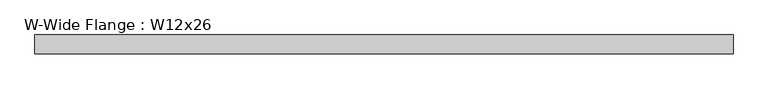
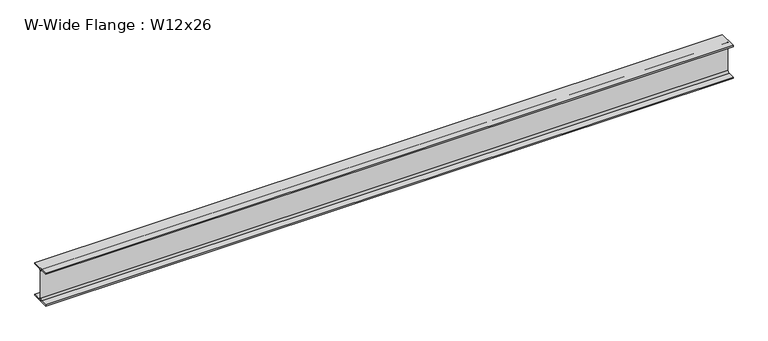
"""IFC4 building model written with IfcOpenShell, lengths in millimetres: beam geometry, W-Wide Flange : W12x26."""

from ifc_helpers import new_model, si_unit, point, frame, frame_2d, origin, place, context, project, spatial, polyline, circle_curve, trimmed, segment, composite_curve, outline, extrude, source, transform, mapped, element, save


def w_wide_flange_w12x26_57ccea49(model_context):
    return source(origin(), model_context, "Body", "SweptSolid", [
        extrude(outline(composite_curve([segment(polyline([(82.423, -145.288), (82.423, -154.94), (-82.423, -154.94), (-82.423, -145.288), (-20.2565, -145.288)]), True, "CONTINUOUS"), segment(trimmed(circle_curve(frame_2d((-20.2565, -127.9525)), 17.3355), [point((-20.2565, -145.288))], [point((-2.921, -127.9525))], True, "CARTESIAN"), True, "CONTINUOUS"), segment(polyline([(-2.921, -127.9525), (-2.921, 127.9525)]), True, "CONTINUOUS"), segment(trimmed(circle_curve(frame_2d((-20.2565, 127.9525)), 17.3355), [point((-2.921, 127.9525))], [point((-20.2565, 145.288))], True, "CARTESIAN"), True, "CONTINUOUS"), segment(polyline([(-20.2565, 145.288), (-82.423, 145.288), (-82.423, 154.94), (82.423, 154.94), (82.423, 145.288), (20.2565, 145.288)]), True, "CONTINUOUS"), segment(trimmed(circle_curve(frame_2d((20.2565, 127.9525)), 17.3355), [point((20.2565, 145.288))], [point((2.921, 127.9525))], True, "CARTESIAN"), True, "CONTINUOUS"), segment(polyline([(2.921, 127.9525), (2.921, -127.9525)]), True, "CONTINUOUS"), segment(trimmed(circle_curve(frame_2d((20.2565, -127.9525)), 17.3355), [point((2.921, -127.9525))], [point((20.2565, -145.288))], True, "CARTESIAN"), True, "CONTINUOUS"), segment(polyline([(20.2565, -145.288), (82.423, -145.288)]), True, "CONTINUOUS")], self_intersect=False)), frame((-3050.54, 0.0, 0.0), z_axis=(1.0, 0.0, 0.0), x_axis=(0.0, 1.0, 0.0)), (0.0, 0.0, 1.0), 6138.037),
    ])


if __name__ == "__main__":
    model = new_model("IFC4")
    model_context = context("Model", 3, world=origin())
    ifc_project = project(units=[si_unit("LENGTHUNIT", "METRE", prefix="MILLI")], contexts=[model_context])
    site = spatial("IfcSite", under=ifc_project)
    building = spatial("IfcBuilding", under=site)
    placement = place(None, origin())
    w_wide_flange_w12x26_shape = w_wide_flange_w12x26_57ccea49(model_context)
    element("IfcBeam", 1, ObjectType="W-Wide Flange : W12x26", at=placement, inside=building, context=model_context, shape_type="MappedRepresentation", body=[
        mapped(w_wide_flange_w12x26_shape, transform((0.0, 0.0, 0.0), x_axis=(1.0, 0.0, 0.0), y_axis=(0.0, 1.0, 0.0), z_axis=(0.0, 0.0, 1.0))),
    ])
    save(model, "model.ifc")
